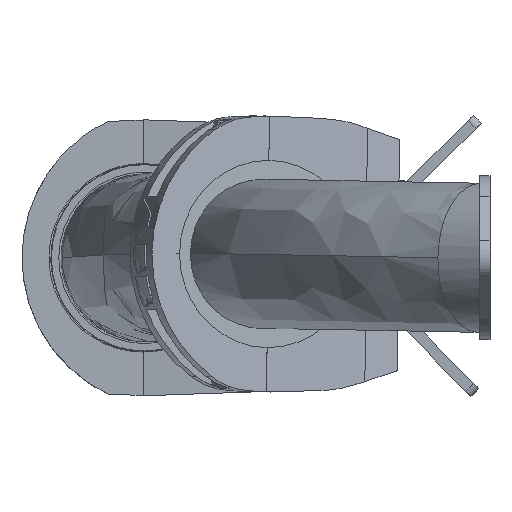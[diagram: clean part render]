
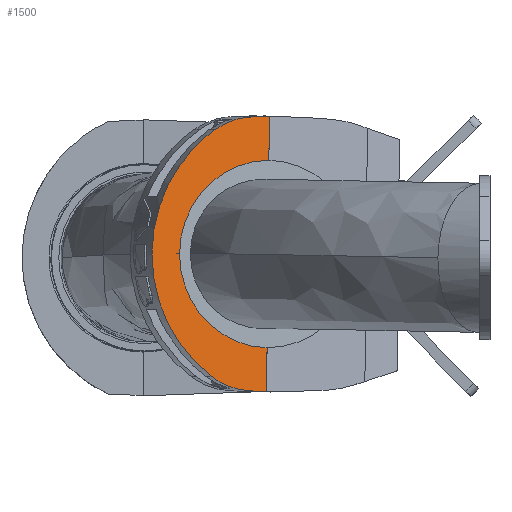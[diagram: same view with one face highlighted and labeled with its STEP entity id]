
A CAD part, left-side view. The second image highlights one B-rep face of the part: STEP entity #1500.
In plain terms, the highlighted planar face has unit normal (-0.956, -0.292, -0.003).
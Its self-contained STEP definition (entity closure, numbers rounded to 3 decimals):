
#21 = DIRECTION ( 'NONE',  ( 0., 0.01, -1. ) ) ;
#78 = CIRCLE ( 'NONE', #4944, 50.308 ) ;
#79 = VERTEX_POINT ( 'NONE', #9982 ) ;
#130 = VERTEX_POINT ( 'NONE', #13784 ) ;
#220 = ORIENTED_EDGE ( 'NONE', *, *, #8370, .F. ) ;
#386 = VERTEX_POINT ( 'NONE', #14443 ) ;
#452 = FACE_OUTER_BOUND ( 'NONE', #4604, .T. ) ;
#635 = VERTEX_POINT ( 'NONE', #14241 ) ;
#1319 = CARTESIAN_POINT ( 'NONE',  ( 877.866, 236.712, 2058.574 ) ) ;
#1320 = VERTEX_POINT ( 'NONE', #5280 ) ;
#1447 = CARTESIAN_POINT ( 'NONE',  ( 886.817, 208.575, 1941.736 ) ) ;
#1454 =( BOUNDED_CURVE ( )  B_SPLINE_CURVE ( 3, ( #15224, #11453, #8779, #11524 ),
 .UNSPECIFIED., .F., .F. ) 
 B_SPLINE_CURVE_WITH_KNOTS ( ( 4, 4 ),
 ( 5.325, 7.241 ),
 .UNSPECIFIED. ) 
 CURVE ( )  GEOMETRIC_REPRESENTATION_ITEM ( )  RATIONAL_B_SPLINE_CURVE ( ( 1., 0.717, 0.717, 1. ) ) 
 REPRESENTATION_ITEM ( '' )  );
#1500 = ADVANCED_FACE ( 'NONE', ( #452 ), #10994, .F. ) ;
#1630 = DIRECTION ( 'NONE',  ( 0.292, -0.956, 0.026 ) ) ;
#2013 = ORIENTED_EDGE ( 'NONE', *, *, #8413, .F. ) ;
#2459 = LINE ( 'NONE', #10636, #9505 ) ;
#2589 = VERTEX_POINT ( 'NONE', #15508 ) ;
#2914 = CARTESIAN_POINT ( 'NONE',  ( 884.189, 215.959, 2065.629 ) ) ;
#2928 = CARTESIAN_POINT ( 'NONE',  ( 887.256, 207.37, 1918.148 ) ) ;
#2999 = EDGE_CURVE ( 'NONE', #386, #635, #4936, .T. ) ;
#3072 = CARTESIAN_POINT ( 'NONE',  ( 887.256, 205.924, 2065.897 ) ) ;
#3760 = CARTESIAN_POINT ( 'NONE',  ( 887.027, 207.396, 1992.03 ) ) ;
#3893 = ORIENTED_EDGE ( 'NONE', *, *, #2999, .F. ) ;
#4369 = LINE ( 'NONE', #2928, #11311 ) ;
#4509 = DIRECTION ( 'NONE',  ( 0.292, -0.956, -0.009 ) ) ;
#4529 = CARTESIAN_POINT ( 'NONE',  ( 879.736, 231.935, 1921.516 ) ) ;
#4604 = EDGE_LOOP ( 'NONE', ( #11712, #11506, #2013, #220, #3893, #6644, #7710, #11201, #11317 ) ) ;
#4708 = CARTESIAN_POINT ( 'NONE',  ( 881.904, 224.87, 1918.958 ) ) ;
#4897 = VERTEX_POINT ( 'NONE', #15370 ) ;
#4936 =( BOUNDED_CURVE ( )  B_SPLINE_CURVE ( 3, ( #14956, #4708, #4529, #9516 ),
 .UNSPECIFIED., .F., .T. ) 
 B_SPLINE_CURVE_WITH_KNOTS ( ( 4, 4 ),
 ( 4.747, 5.325 ),
 .UNSPECIFIED. ) 
 CURVE ( )  GEOMETRIC_REPRESENTATION_ITEM ( )  RATIONAL_B_SPLINE_CURVE ( ( 1., 0.972, 0.972, 1. ) ) 
 REPRESENTATION_ITEM ( '' )  );
#4944 = AXIS2_PLACEMENT_3D ( 'NONE', #6266, #8756, #14086 ) ;
#5280 = CARTESIAN_POINT ( 'NONE',  ( 877.866, 236.712, 2058.574 ) ) ;
#5313 = DIRECTION ( 'NONE',  ( 0., 0.01, -1. ) ) ;
#5389 = CIRCLE ( 'NONE', #9201, 50.308 ) ;
#5495 = EDGE_CURVE ( 'NONE', #79, #4897, #12240, .T. ) ;
#5752 = CARTESIAN_POINT ( 'NONE',  ( 870.727, 259.731, 2092.547 ) ) ;
#5784 = VERTEX_POINT ( 'NONE', #1447 ) ;
#6049 = CARTESIAN_POINT ( 'NONE',  ( 872.319, 255.504, 1992.501 ) ) ;
#6266 = CARTESIAN_POINT ( 'NONE',  ( 887.027, 207.396, 1992.03 ) ) ;
#6644 = ORIENTED_EDGE ( 'NONE', *, *, #7135, .F. ) ;
#7135 = EDGE_CURVE ( 'NONE', #2589, #386, #4369, .T. ) ;
#7553 = DIRECTION ( 'NONE',  ( 0.292, -0.956, -0.009 ) ) ;
#7588 = EDGE_CURVE ( 'NONE', #5784, #12889, #5389, .T. ) ;
#7656 = EDGE_CURVE ( 'NONE', #12889, #130, #78, .T. ) ;
#7710 = ORIENTED_EDGE ( 'NONE', *, *, #10990, .F. ) ;
#8370 = EDGE_CURVE ( 'NONE', #635, #1320, #1454, .T. ) ;
#8413 = EDGE_CURVE ( 'NONE', #1320, #79, #11271, .T. ) ;
#8756 = DIRECTION ( 'NONE',  ( 0.956, 0.292, 0.003 ) ) ;
#8779 = CARTESIAN_POINT ( 'NONE',  ( 863.122, 285.283, 2023.601 ) ) ;
#9124 = VECTOR ( 'NONE', #1630, 1000. ) ;
#9184 = CARTESIAN_POINT ( 'NONE',  ( 881.904, 223.436, 2065.429 ) ) ;
#9201 = AXIS2_PLACEMENT_3D ( 'NONE', #3760, #14005, #7553 ) ;
#9443 = LINE ( 'NONE', #11698, #15190 ) ;
#9505 = VECTOR ( 'NONE', #21, 1000. ) ;
#9516 = CARTESIAN_POINT ( 'NONE',  ( 877.866, 238.009, 1926.072 ) ) ;
#9523 = DIRECTION ( 'NONE',  ( -0.292, 0.955, 0.044 ) ) ;
#9982 = CARTESIAN_POINT ( 'NONE',  ( 884.189, 215.959, 2065.629 ) ) ;
#10516 = CARTESIAN_POINT ( 'NONE',  ( 879.736, 230.551, 2063.011 ) ) ;
#10636 = CARTESIAN_POINT ( 'NONE',  ( 886.817, 207.361, 2065.858 ) ) ;
#10990 = EDGE_CURVE ( 'NONE', #5784, #2589, #9443, .T. ) ;
#10994 = PLANE ( 'NONE',  #12423 ) ;
#11201 = ORIENTED_EDGE ( 'NONE', *, *, #7588, .T. ) ;
#11271 =( BOUNDED_CURVE ( )  B_SPLINE_CURVE ( 3, ( #1319, #10516, #9184, #2914 ),
 .UNSPECIFIED., .F., .F. ) 
 B_SPLINE_CURVE_WITH_KNOTS ( ( 4, 4 ),
 ( 0.958, 1.536 ),
 .UNSPECIFIED. ) 
 CURVE ( )  GEOMETRIC_REPRESENTATION_ITEM ( )  RATIONAL_B_SPLINE_CURVE ( ( 1., 0.972, 0.972, 1. ) ) 
 REPRESENTATION_ITEM ( '' )  );
#11311 = VECTOR ( 'NONE', #9523, 1000. ) ;
#11317 = ORIENTED_EDGE ( 'NONE', *, *, #7656, .T. ) ;
#11453 = CARTESIAN_POINT ( 'NONE',  ( 863.122, 285.886, 1961.989 ) ) ;
#11506 = ORIENTED_EDGE ( 'NONE', *, *, #5495, .F. ) ;
#11524 = CARTESIAN_POINT ( 'NONE',  ( 877.866, 236.712, 2058.574 ) ) ;
#11698 = CARTESIAN_POINT ( 'NONE',  ( 886.817, 207.361, 2065.858 ) ) ;
#11712 = ORIENTED_EDGE ( 'NONE', *, *, #14065, .F. ) ;
#12240 = LINE ( 'NONE', #3072, #9124 ) ;
#12423 = AXIS2_PLACEMENT_3D ( 'NONE', #5752, #14583, #4509 ) ;
#12889 = VERTEX_POINT ( 'NONE', #6049 ) ;
#13784 = CARTESIAN_POINT ( 'NONE',  ( 886.817, 207.591, 2042.337 ) ) ;
#14005 = DIRECTION ( 'NONE',  ( 0.956, 0.292, 0.003 ) ) ;
#14065 = EDGE_CURVE ( 'NONE', #4897, #130, #2459, .T. ) ;
#14086 = DIRECTION ( 'NONE',  ( 0.292, -0.956, -0.009 ) ) ;
#14241 = CARTESIAN_POINT ( 'NONE',  ( 877.866, 238.009, 1926.072 ) ) ;
#14443 = CARTESIAN_POINT ( 'NONE',  ( 884.189, 217.398, 1918.612 ) ) ;
#14583 = DIRECTION ( 'NONE',  ( 0.956, 0.292, 0.003 ) ) ;
#14956 = CARTESIAN_POINT ( 'NONE',  ( 884.189, 217.398, 1918.612 ) ) ;
#15190 = VECTOR ( 'NONE', #5313, 1000. ) ;
#15224 = CARTESIAN_POINT ( 'NONE',  ( 877.866, 238.009, 1926.072 ) ) ;
#15370 = CARTESIAN_POINT ( 'NONE',  ( 886.817, 207.361, 2065.858 ) ) ;
#15508 = CARTESIAN_POINT ( 'NONE',  ( 886.817, 208.806, 1918.215 ) ) ;
